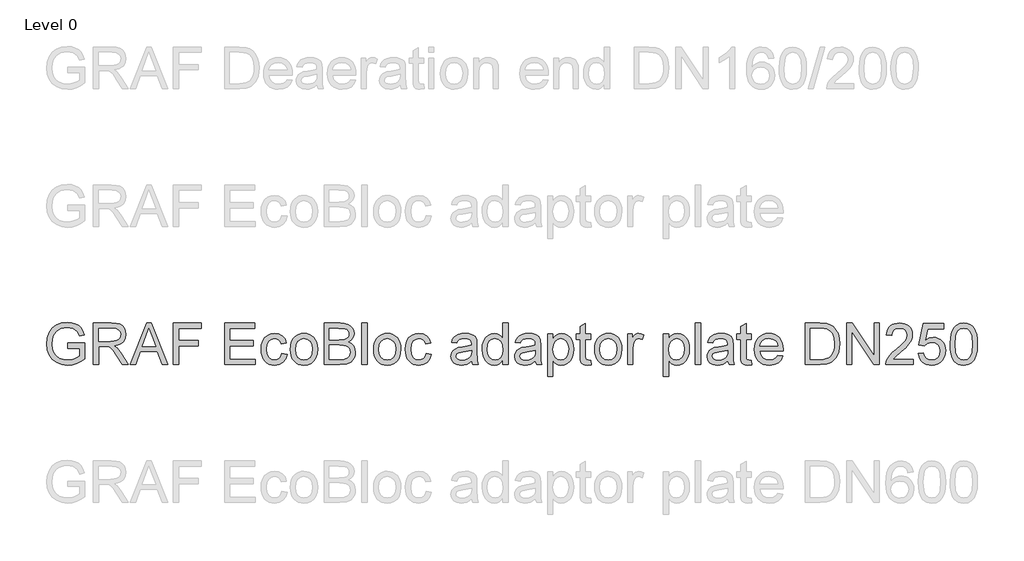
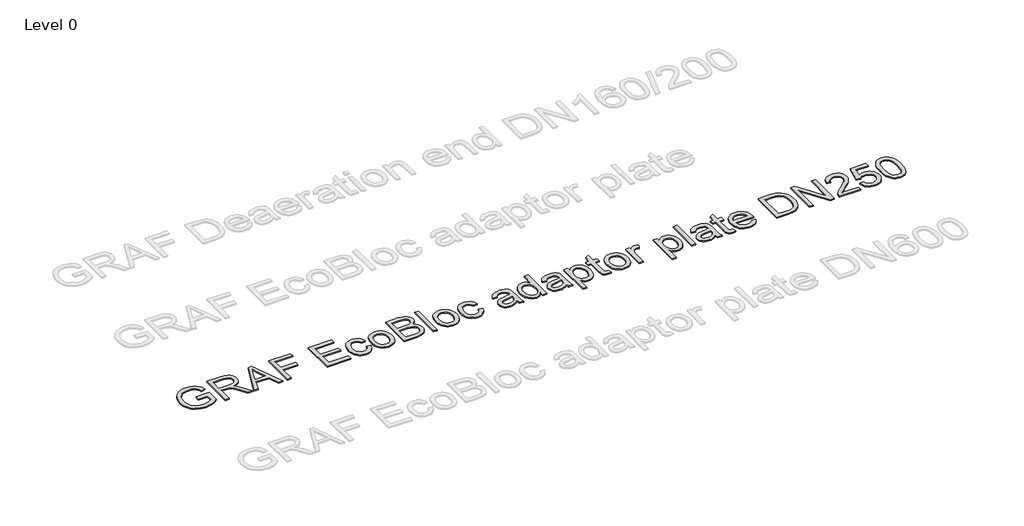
# One storey, part 2 of 25: 1 proxy.
"""IFC4 building model written with IfcOpenShell, lengths in millimetres."""

import ifcopenshell
import ifcopenshell.guid

model = None  # the IFC model being written
_history = None  # IfcOwnerHistory: only IFC2X3 demands one
_inside = {}  # id of a spatial element -> (the spatial element, [elements in it])
_under = {}  # id of a project, library or spatial element -> (it, [spatial elements below it])
_declared = {}  # id of a project -> (the project, [libraries it declares])
_typed = {}  # id of a type object -> (the type object, [elements of that type])
_made_of = {}  # id of a material, layer set ... -> (it, [elements and type objects made of it])


def new_model(schema):
    """Start an empty IFC model of exactly this schema.

    Asked for "IFC4X3", IfcOpenShell would pick the latest addendum, in which some entities
    have other attributes; the version numbers below select the first issue.
    IFC2X3 requires an IfcOwnerHistory on every rooted entity: one is made here for all.
    """
    global model, _history
    if schema == "IFC4X3":
        model = ifcopenshell.file(schema_version=(4, 3, 0, 0))
    else:
        model = ifcopenshell.file(schema=schema)
    _inside.clear()
    _under.clear()
    _declared.clear()
    _typed.clear()
    _made_of.clear()
    _history = None
    if model.schema == "IFC2X3":
        org = make("IfcOrganization", Name="unknown")
        user = make(
            "IfcPersonAndOrganization",
            ThePerson=make("IfcPerson", FamilyName="unknown"),
            TheOrganization=org,
        )
        app = make(
            "IfcApplication",
            ApplicationDeveloper=org,
            Version="unknown",
            ApplicationFullName="unknown",
            ApplicationIdentifier="unknown",
        )
        _history = make(
            "IfcOwnerHistory",
            OwningUser=user,
            OwningApplication=app,
            ChangeAction="ADDED",
            CreationDate=0,
        )
    return model


def make(cls, **values):
    """One entity of the class cls with the attributes given. An attribute that is None is left unset."""
    return model.create_entity(
        cls, **{name: value for name, value in values.items() if value is not None}
    )


def rooted(cls, **values):
    """An entity with a GlobalId (a new one), such as an element, a storey or a relation."""
    return make(cls, GlobalId=ifcopenshell.guid.new(), OwnerHistory=_history, **values)


def si_unit(unit_type, name, prefix=None):
    """IfcSIUnit, for example si_unit("LENGTHUNIT", "METRE", prefix="MILLI")."""
    return make("IfcSIUnit", UnitType=unit_type, Prefix=prefix, Name=name)


def assignment(units):
    """IfcUnitAssignment: the units of a project."""
    return None if units is None else make("IfcUnitAssignment", Units=units)


def point(xyz):
    """IfcCartesianPoint."""
    return None if xyz is None else make("IfcCartesianPoint", Coordinates=xyz)


def direction(xyz):
    """IfcDirection."""
    return None if xyz is None else make("IfcDirection", DirectionRatios=xyz)


def frame(location, z_axis=None, x_axis=None):
    """IfcAxis2Placement3D, a coordinate frame: its origin and axes. An axis left out is left unset."""
    return make(
        "IfcAxis2Placement3D",
        Location=point(location),
        Axis=direction(z_axis),
        RefDirection=direction(x_axis),
    )


def origin():
    """The frame at (0, 0, 0) with its axes left unset."""
    return frame((0.0, 0.0, 0.0))


def origin_with_axes():
    """The frame at (0, 0, 0) with the z axis (0, 0, 1) and the x axis (1, 0, 0) written out."""
    return frame((0.0, 0.0, 0.0), z_axis=(0.0, 0.0, 1.0), x_axis=(1.0, 0.0, 0.0))


def place(relative_to, where):
    """IfcLocalPlacement: puts the frame where relative to a parent placement (None: the world)."""
    return make(
        "IfcLocalPlacement", PlacementRelTo=relative_to, RelativePlacement=where
    )


def context(
    kind, dimensions, precision=None, world=None, true_north=None, identifier=None
):
    """IfcGeometricRepresentationContext, for example the 3D "Model" context."""
    return make(
        "IfcGeometricRepresentationContext",
        ContextIdentifier=identifier,
        ContextType=kind,
        CoordinateSpaceDimension=dimensions,
        Precision=precision,
        WorldCoordinateSystem=world,
        TrueNorth=true_north,
    )


def project(units=None, contexts=None):
    """IfcProject with its units and contexts."""
    return rooted(
        "IfcProject",
        Name="project",
        RepresentationContexts=contexts,
        UnitsInContext=assignment(units),
    )


def spatial(cls, under=None, at=None, **own):
    """A site, building, storey or space (cls), placed at a placement, below another one or the project."""
    s = rooted(cls, ObjectPlacement=at, **own)
    if under is not None:
        _under.setdefault(under.id(), (under, []))[1].append(s)
    return s


def polyline(points):
    """IfcPolyline through the points."""
    return make("IfcPolyline", Points=[point(p) for p in points])


def outline(outer, holes=None, kind="AREA"):
    """IfcArbitraryClosedProfileDef: a profile drawn as a closed curve; with holes, ...WithVoids."""
    if holes is None:
        return make("IfcArbitraryClosedProfileDef", ProfileType=kind, OuterCurve=outer)
    return make(
        "IfcArbitraryProfileDefWithVoids",
        ProfileType=kind,
        OuterCurve=outer,
        InnerCurves=holes,
    )


def extrude(swept, where, along, depth):
    """IfcExtrudedAreaSolid: the profile swept, set in the frame where, extruded along a direction by depth."""
    return make(
        "IfcExtrudedAreaSolid",
        SweptArea=swept,
        Position=where,
        ExtrudedDirection=direction(along),
        Depth=depth,
    )


def shape(context_of_items, identifier, shape_type, items):
    """IfcShapeRepresentation: the items that make up one representation, for example the "Body"."""
    return make(
        "IfcShapeRepresentation",
        ContextOfItems=context_of_items,
        RepresentationIdentifier=identifier,
        RepresentationType=shape_type,
        Items=items,
    )


def made_of(thing, what):
    """Note that an element or type object is made of a material, layer set ...; save() writes the relation."""
    if what is not None:
        _made_of.setdefault(what.id(), (what, []))[1].append(thing)
    return thing


def element(
    cls,
    number,
    at=None,
    inside=None,
    cuts=None,
    type_object=None,
    material=None,
    context=None,
    identifier="Body",
    shape_type=None,
    held_by="IfcProductDefinitionShape",
    body=None,
    shapes=None,
    **own,
):
    """One element of the class cls, such as IfcWall. Its Tag is "e" and its number.

    at: its placement. inside: the storey or other place that contains it. cuts: it is an
    opening in that element (IfcRelVoidsElement). A single representation is given by context,
    identifier, shape_type and body (its items); several are given by shapes. held_by: the class
    of the entity that holds the representations. save() writes the other relations.
    """
    e = rooted(cls, Tag="e%d" % number, ObjectPlacement=at, **own)
    if body is not None:
        shapes = [shape(context, identifier, shape_type, body)]
    if shapes is not None:
        e.Representation = make(held_by, Representations=shapes)
    if inside is not None:
        _inside.setdefault(inside.id(), (inside, []))[1].append(e)
    if cuts is not None:
        rooted(
            "IfcRelVoidsElement", RelatingBuildingElement=cuts, RelatedOpeningElement=e
        )
    if type_object is not None:
        _typed.setdefault(type_object.id(), (type_object, []))[1].append(e)
    return made_of(e, material)


def aggregate(whole, parts):
    """IfcRelAggregates: a whole, such as a stair, and the parts it consists of."""
    return rooted("IfcRelAggregates", RelatingObject=whole, RelatedObjects=parts)


def save(model, path):
    """Write the relations noted so far, then the file.

    IfcRelAggregates (storeys below a building ...), IfcRelContainedInSpatialStructure (elements
    in a storey), IfcRelDefinesByType, IfcRelAssociatesMaterial and IfcRelDeclares: one each for
    every whole, place, type object, material and project.
    """
    for whole, parts in _under.values():
        aggregate(whole, parts)
    for where, things in _inside.values():
        rooted(
            "IfcRelContainedInSpatialStructure",
            RelatedElements=things,
            RelatingStructure=where,
        )
    for kind, things in _typed.values():
        rooted("IfcRelDefinesByType", RelatedObjects=things, RelatingType=kind)
    for what, things in _made_of.values():
        rooted("IfcRelAssociatesMaterial", RelatedObjects=things, RelatingMaterial=what)
    for by, libraries in _declared.values():
        rooted("IfcRelDeclares", RelatingContext=by, RelatedDefinitions=libraries)
    model.write(path)


model = new_model("IFC4")

# Units and contexts
model_context = context("Model", 3, world=origin())
ifc_project = project(units=[si_unit("LENGTHUNIT", "METRE", prefix="MILLI")], contexts=[model_context])

# Site, building, storey
site = spatial("IfcSite", under=ifc_project)
building = spatial("IfcBuilding", under=site)
storey = spatial("IfcBuildingStorey", under=building, Name="Level 0", Elevation=0.0)

# Proxy
placement = place(None, origin())
element("IfcBuildingElementProxy", 1, Name="300mm Arial", ObjectType="300mm Arial", at=placement, inside=storey, context=model_context, shape_type="SweptSolid", body=[
    extrude(outline(polyline([(-15240.9940387, -9083.2545597), (-15240.9940387, -9045.5834434), (-15118.5629107, -9045.5834434), (-15118.5629107, -9158.2289103), (-15148.3153671, -9178.9222726), (-15179.0059225, -9193.7663111), (-15210.5610007, -9202.7058436), (-15242.9070251, -9205.6856877), (-15285.1674693, -9200.949207), (-15323.3628175, -9186.739765), (-15355.0926395, -9163.5540022), (-15377.9565055, -9131.8885595), (-15391.7796715, -9093.9047435), (-15396.3873935, -9051.7638609), (-15391.7980656, -9009.3194757), (-15378.0300819, -8969.8365406), (-15355.6536596, -8936.717964), (-15325.2390156, -8913.3666543), (-15288.1932987, -8899.5158972), (-15245.9236575, -8894.8989782), (-15214.8928112, -8897.5753197), (-15186.9889618, -8905.6043443), (-15163.4904994, -8918.4066377), (-15145.6758138, -8935.4027859), (-15132.4964413, -8957.4113262), (-15122.9039183, -8985.2507962), (-15157.6319786, -8995.0364573), (-15165.3850917, -8975.1800266), (-15174.8120678, -8960.1980323), (-15187.2832674, -8948.9040551), (-15204.169051, -8940.1116754), (-15224.3013932, -8934.4554897), (-15246.5122687, -8932.5700945), (-15272.5123287, -8934.6026425), (-15294.7415982, -8940.7002866), (-15313.1173039, -8950.0996716), (-15327.5566722, -8962.0374423), (-15346.9440533, -8991.0633317), (-15355.7732212, -9019.50061), (-15358.7162772, -9050.2187566), (-15355.175413, -9086.2436009), (-15344.5528204, -9115.8856927), (-15327.1703961, -9138.9334997), (-15303.3500369, -9155.1754898), (-15275.4737787, -9164.804801), (-15245.9236575, -9168.0145714), (-15219.831627, -9165.5957473), (-15194.3833899, -9158.3392749), (-15172.2828791, -9148.3420817), (-15156.234027, -9137.701095), (-15156.234027, -9083.2545597), (-15240.9940387, -9083.2545597)])), origin_with_axes(), (0.0, 0.0, 1.0), 10.0),
    extrude(outline(polyline([(-15057.3473467, -9200.9767982), (-15057.3473467, -8899.6078677), (-14927.4850024, -8899.6078677), (-14892.5821982, -8901.6404158), (-14867.1891434, -8907.7380598), (-14848.6294968, -8918.9952489), (-14834.2269167, -8936.5064318), (-14824.9838815, -8958.2206666), (-14821.9028698, -8982.087011), (-14827.0072325, -9011.7750881), (-14842.3203206, -9036.3863935), (-14853.9200997, -9046.4157764), (-14868.3019865, -9054.4310054), (-14905.4120827, -9064.4190016), (-14884.0013506, -9080.532233), (-14853.467145, -9119.3069952), (-14803.2144645, -9200.9767982), (-14846.9924219, -9200.9767982), (-14886.2086426, -9138.5104354), (-14914.5355562, -9097.1604991), (-14934.4379722, -9077.6259652), (-14952.3538253, -9070.4522663), (-14974.2060158, -9069.1278911), (-15019.6762304, -9069.1278911), (-15019.6762304, -9200.9767982), (-15057.3473467, -9200.9767982)]), holes=[polyline([(-15019.6762304, -9031.4567748), (-14935.3576771, -9031.4567748), (-14911.1418448, -9030.1232026), (-14892.3522719, -9026.1224859), (-14878.2072092, -9019.1879103), (-14867.9249074, -9009.0527613), (-14861.6617165, -8996.7930938), (-14859.5739861, -8983.4849626), (-14863.5563087, -8965.109257), (-14875.5032765, -8950.3020067), (-14896.058683, -8940.5347397), (-14925.8663217, -8937.278984), (-15019.6762304, -8937.278984), (-15019.6762304, -9031.4567748)])]), origin_with_axes(), (0.0, 0.0, 1.0), 10.0),
    extrude(outline(polyline([(-14791.0743586, -9200.9767982), (-14670.7769462, -8899.6078677), (-14638.6976362, -8899.6078677), (-14518.4002238, -9200.9767982), (-14558.2050557, -9200.9767982), (-14592.7123868, -9106.7990074), (-14716.835772, -9106.7990074), (-14751.2695268, -9200.9767982), (-14791.0743586, -9200.9767982)]), holes=[polyline([(-14703.003409, -9069.1278911), (-14606.4711735, -9069.1278911), (-14633.6208647, -8995.0364573), (-14654.7372912, -8937.278984), (-14673.499273, -8988.5617342), (-14703.003409, -9069.1278911)])]), origin_with_axes(), (0.0, 0.0, 1.0), 10.0),
    extrude(outline(polyline([(-14478.1539335, -9200.9767982), (-14478.1539335, -8899.6078677), (-14275.6716834, -8899.6078677), (-14275.6716834, -8937.278984), (-14440.4828172, -8937.278984), (-14440.4828172, -9026.7478853), (-14299.2161311, -9026.7478853), (-14299.2161311, -9064.4190016), (-14440.4828172, -9064.4190016), (-14440.4828172, -9200.9767982), (-14478.1539335, -9200.9767982)])), origin_with_axes(), (0.0, 0.0, 1.0), 10.0),
    extrude(outline(polyline([(-14106.15166, -9200.9767982), (-14106.15166, -8899.6078677), (-13889.5427413, -8899.6078677), (-13889.5427413, -8937.278984), (-14068.4805437, -8937.278984), (-14068.4805437, -9026.7478853), (-13898.9605203, -9026.7478853), (-13898.9605203, -9064.4190016), (-14068.4805437, -9064.4190016), (-14068.4805437, -9163.3056819), (-13884.8338517, -9163.3056819), (-13884.8338517, -9200.9767982), (-14106.15166, -9200.9767982)])), origin_with_axes(), (0.0, 0.0, 1.0), 10.0),
    extrude(outline(polyline([(-13691.7693806, -9120.925676), (-13654.0982643, -9125.6345656), (-13664.6012953, -9159.1394183), (-13684.3381643, -9184.4588966), (-13711.4510674, -9200.3789899), (-13744.0822004, -9205.6856877), (-13765.2101232, -9203.8347814), (-13784.1537467, -9198.2820626), (-13800.9130708, -9189.0275311), (-13815.4880956, -9176.0711871), (-13827.2856114, -9159.6567523), (-13835.7124083, -9140.0279486), (-13840.7684865, -9117.184776), (-13842.4538459, -9091.1272344), (-13839.5751693, -9057.6039876), (-13830.9391394, -9028.550507), (-13816.4078006, -9005.0888328), (-13795.8431971, -8988.341005), (-13771.2410887, -8978.2978265), (-13744.5972352, -8974.9501003), (-13712.7662455, -8979.5486253), (-13687.3180085, -8993.3442001), (-13669.0618645, -9015.6010608), (-13658.8071539, -9045.5834434), (-13696.4782702, -9050.292333), (-13703.3116782, -9033.8572048), (-13713.952665, -9022.0757839), (-13727.8126191, -9014.9848585), (-13744.3029296, -9012.6212166), (-13768.6475206, -9017.2749239), (-13787.9705224, -9031.2360456), (-13800.5796778, -9055.2587399), (-13804.7827296, -9090.0971648), (-13800.6716483, -9125.4046393), (-13788.3384044, -9149.5101071), (-13769.3648905, -9163.3884553), (-13745.3329991, -9168.0145714), (-13725.8260564, -9165.1266977), (-13709.8323866, -9156.4630768), (-13698.1981185, -9141.8029793), (-13691.7693806, -9120.925676)])), origin_with_axes(), (0.0, 0.0, 1.0), 10.0),
    extrude(outline(polyline([(-13630.5538167, -9090.317894), (-13628.5166701, -9061.6552881), (-13622.4052305, -9036.9566106), (-13612.2194977, -9016.2218617), (-13597.9594719, -8999.4510412), (-13583.602877, -8988.7318796), (-13567.7563601, -8981.0753356), (-13550.4199211, -8976.4814091), (-13531.5935599, -8974.9501003), (-13510.8105265, -8976.8148022), (-13492.0186543, -8982.4089078), (-13475.2179434, -8991.7324171), (-13460.4083939, -9004.7853302), (-13448.3211711, -9021.1261885), (-13439.6874405, -9040.3135338), (-13434.5072022, -9062.3473661), (-13432.780456, -9087.2276853), (-13435.8338766, -9125.2850777), (-13444.9941383, -9154.2557848), (-13459.9945266, -9175.9516255), (-13480.5683272, -9192.1844185), (-13505.0048887, -9202.3103704), (-13531.5935599, -9205.6856877), (-13552.6800961, -9203.8278836), (-13571.6467122, -9198.2544714), (-13588.4934083, -9188.965451), (-13603.2201844, -9175.9608225), (-13615.1786485, -9159.461315), (-13623.7204086, -9139.6876578), (-13628.8454646, -9116.6398508), (-13630.5538167, -9090.317894)]), holes=[polyline([(-13592.8827003, -9090.2443176), (-13588.5232987, -9124.3377815), (-13575.4450938, -9148.6271903), (-13555.763407, -9163.1677261), (-13531.5935599, -9168.0145714), (-13507.5340775, -9163.140135), (-13487.8891789, -9148.5168257), (-13474.810974, -9123.9055202), (-13470.4515723, -9089.0670952), (-13474.8385651, -9055.9669127), (-13487.9995435, -9032.0085978), (-13507.6720332, -9017.4680619), (-13531.5935599, -9012.6212166), (-13555.763407, -9017.4496678), (-13575.4450938, -9031.9350214), (-13588.5232987, -9056.1692478), (-13592.8827003, -9090.2443176)])]), origin_with_axes(), (0.0, 0.0, 1.0), 10.0),
    extrude(outline(polyline([(-13385.6915607, -9200.9767982), (-13385.6915607, -8899.6078677), (-13270.691649, -8899.6078677), (-13239.0629944, -8901.8243568), (-13214.3689155, -8908.4738238), (-13195.4413869, -8919.7218158), (-13181.1123831, -8935.7338797), (-13172.0900772, -8954.5694378), (-13169.0826419, -8974.2879128), (-13171.6118306, -8992.4336922), (-13179.1993968, -9009.4942197), (-13191.9005227, -9024.4210316), (-13209.7703906, -9036.1656643), (-13188.4240378, -9047.3124888), (-13172.6510973, -9064.2718488), (-13162.9114214, -9085.9217042), (-13159.6648628, -9111.140015), (-13161.8813518, -9132.1552739), (-13168.5308189, -9151.6438226), (-13178.4544357, -9168.2169065), (-13190.493374, -9180.485771), (-13205.236245, -9189.3701212), (-13223.2716598, -9195.789662), (-13271.5745658, -9200.9767982), (-13385.6915607, -9200.9767982)]), holes=[polyline([(-13348.0204444, -9163.3056819), (-13270.7652254, -9163.3056819), (-13242.8061937, -9161.8341539), (-13219.1513814, -9153.6303854), (-13203.4796084, -9136.8917546), (-13198.8718865, -9125.0643485), (-13197.3359791, -9111.507897), (-13199.1386009, -9095.7625476), (-13204.5464662, -9082.2244901), (-13213.9918365, -9071.6386857), (-13227.9069729, -9064.7500954), (-13247.6162508, -9060.9701079), (-13274.4440453, -9059.710112), (-13348.0204444, -9059.710112), (-13348.0204444, -9163.3056819)]), polyline([(-13348.0204444, -9022.0389957), (-13279.2265113, -9022.0389957), (-13239.0537974, -9018.8016342), (-13224.9915081, -9013.2190249), (-13214.8839503, -9004.8589065), (-13208.7863062, -8993.8500378), (-13206.7537582, -8980.3211775), (-13208.6483505, -8967.1877902), (-13214.3321273, -8955.7466602), (-13223.5475713, -8946.8163248), (-13236.037165, -8941.2153214), (-13284.4504356, -8937.278984), (-13348.0204444, -8937.278984), (-13348.0204444, -9022.0389957)])]), origin_with_axes(), (0.0, 0.0, 1.0), 10.0),
    extrude(outline(polyline([(-13112.5759674, -9200.9767982), (-13112.5759674, -8899.6078677), (-13074.9048511, -8899.6078677), (-13074.9048511, -9200.9767982), (-13112.5759674, -9200.9767982)])), origin_with_axes(), (0.0, 0.0, 1.0), 10.0),
    extrude(outline(polyline([(-13027.8159558, -9090.317894), (-13025.7788092, -9061.6552881), (-13019.6673696, -9036.9566106), (-13009.4816368, -9016.2218617), (-12995.221611, -8999.4510412), (-12980.8650161, -8988.7318796), (-12965.0184992, -8981.0753356), (-12947.6820602, -8976.4814091), (-12928.855699, -8974.9501003), (-12908.0726656, -8976.8148022), (-12889.2807934, -8982.4089078), (-12872.4800826, -8991.7324171), (-12857.670533, -9004.7853302), (-12845.5833102, -9021.1261885), (-12836.9495796, -9040.3135338), (-12831.7693413, -9062.3473661), (-12830.0425951, -9087.2276853), (-12833.0960157, -9125.2850777), (-12842.2562774, -9154.2557848), (-12857.2566657, -9175.9516255), (-12877.8304663, -9192.1844185), (-12902.2670278, -9202.3103704), (-12928.855699, -9205.6856877), (-12949.9422352, -9203.8278836), (-12968.9088513, -9198.2544714), (-12985.7555474, -9188.965451), (-13000.4823235, -9175.9608225), (-13012.4407876, -9159.461315), (-13020.9825477, -9139.6876578), (-13026.1076037, -9116.6398508), (-13027.8159558, -9090.317894)]), holes=[polyline([(-12990.1448394, -9090.2443176), (-12985.7854378, -9124.3377815), (-12972.7072329, -9148.6271903), (-12953.0255461, -9163.1677261), (-12928.855699, -9168.0145714), (-12904.7962166, -9163.140135), (-12885.151318, -9148.5168257), (-12872.0731131, -9123.9055202), (-12867.7137115, -9089.0670952), (-12872.1007042, -9055.9669127), (-12885.2616826, -9032.0085978), (-12904.9341723, -9017.4680619), (-12928.855699, -9012.6212166), (-12953.0255461, -9017.4496678), (-12972.7072329, -9031.9350214), (-12985.7854378, -9056.1692478), (-12990.1448394, -9090.2443176)])]), origin_with_axes(), (0.0, 0.0, 1.0), 10.0),
    extrude(outline(polyline([(-12646.3959032, -9120.925676), (-12608.7247868, -9125.6345656), (-12619.2278178, -9159.1394183), (-12638.9646869, -9184.4588966), (-12666.0775899, -9200.3789899), (-12698.7087229, -9205.6856877), (-12719.8366457, -9203.8347814), (-12738.7802692, -9198.2820626), (-12755.5395933, -9189.0275311), (-12770.1146181, -9176.0711871), (-12781.9121339, -9159.6567523), (-12790.3389308, -9140.0279486), (-12795.395009, -9117.184776), (-12797.0803684, -9091.1272344), (-12794.2016918, -9057.6039876), (-12785.5656619, -9028.550507), (-12771.0343231, -9005.0888328), (-12750.4697196, -8988.341005), (-12725.8676112, -8978.2978265), (-12699.2237577, -8974.9501003), (-12667.392768, -8979.5486253), (-12641.944531, -8993.3442001), (-12623.688387, -9015.6010608), (-12613.4336764, -9045.5834434), (-12651.1047927, -9050.292333), (-12657.9382008, -9033.8572048), (-12668.5791875, -9022.0757839), (-12682.4391416, -9014.9848585), (-12698.9294521, -9012.6212166), (-12723.2740431, -9017.2749239), (-12742.5970449, -9031.2360456), (-12755.2062003, -9055.2587399), (-12759.4092521, -9090.0971648), (-12755.2981708, -9125.4046393), (-12742.9649269, -9149.5101071), (-12723.991413, -9163.3884553), (-12699.9595217, -9168.0145714), (-12680.4525789, -9165.1266977), (-12664.4589091, -9156.4630768), (-12652.824641, -9141.8029793), (-12646.3959032, -9120.925676)])), origin_with_axes(), (0.0, 0.0, 1.0), 10.0),
    extrude(outline(polyline([(-12316.7736355, -9172.7234609), (-12334.7722621, -9188.1561106), (-12353.3043176, -9198.2544714), (-12372.7928663, -9203.8278836), (-12393.6609725, -9205.6856877), (-12425.1424742, -9201.2159215), (-12448.3650251, -9187.8066228), (-12462.6848318, -9167.4443543), (-12467.4581007, -9142.1156789), (-12465.6554789, -9126.4990883), (-12460.2476136, -9112.3172373), (-12451.9058894, -9100.1771315), (-12441.3016908, -9090.685776), (-12414.9245518, -9078.324941), (-12382.330207, -9072.6595583), (-12343.8129621, -9066.6998699), (-12316.9943647, -9059.710112), (-12316.7736355, -9051.3224025), (-12319.3672035, -9034.5101954), (-12327.1479077, -9023.5105237), (-12344.5487261, -9015.3435434), (-12368.7921496, -9012.6212166), (-12391.2329513, -9014.4330355), (-12406.9047243, -9019.868492), (-12417.5916963, -9029.9208675), (-12425.0780949, -9045.5834434), (-12462.7492112, -9040.8745539), (-12456.2101087, -9020.2731621), (-12446.4520388, -9004.0863544), (-12432.5644935, -8991.7071252), (-12413.6369648, -8982.5284694), (-12390.4879903, -8976.8446926), (-12363.9361073, -8974.9501003), (-12338.4694761, -8976.6239634), (-12318.2819517, -8981.6455527), (-12303.0608341, -8989.1963306), (-12292.4934238, -8998.4577598), (-12285.4852718, -9009.9080869), (-12280.9419291, -9024.0255585), (-12279.1025192, -9056.9877853), (-12279.1025192, -9103.8559515), (-12277.1895328, -9169.3021584), (-12269.6847401, -9200.9767982), (-12307.3558564, -9200.9767982), (-12316.7736355, -9172.7234609)]), holes=[polyline([(-12316.7736355, -9097.3812283), (-12377.5477411, -9108.932723), (-12409.9581449, -9115.0395641), (-12424.6366365, -9124.972378), (-12429.7869844, -9139.4669286), (-12426.9818842, -9150.6689353), (-12418.5665835, -9159.8475911), (-12404.7250235, -9165.9728263), (-12385.641145, -9168.0145714), (-12365.4076352, -9165.7612942), (-12347.5285703, -9159.0014625), (-12333.0340197, -9149.0410575), (-12322.954053, -9137.1860602), (-12318.4842868, -9124.972378), (-12316.9943647, -9108.0498062), (-12316.7736355, -9097.3812283)])]), origin_with_axes(), (0.0, 0.0, 1.0), 10.0),
    extrude(outline(polyline([(-12090.7469376, -9200.9767982), (-12090.7469376, -9165.4393974), (-12102.0179223, -9183.0471494), (-12115.6709428, -9195.6241151), (-12131.7059993, -9203.1702946), (-12150.1230917, -9205.6856877), (-12174.4768797, -9202.043656), (-12196.7705286, -9191.1175607), (-12215.642875, -9173.6707571), (-12229.7327554, -9150.4666002), (-12238.506741, -9122.4431893), (-12241.4314029, -9090.5386232), (-12238.7366672, -9059.0295303), (-12230.6524604, -9030.573858), (-12217.1879794, -9006.790287), (-12198.3524212, -8989.2974982), (-12175.5713287, -8978.5369498), (-12150.2702445, -8974.9501003), (-12131.8393565, -8977.5160773), (-12115.5421841, -8985.214008), (-12101.7282152, -8997.013823), (-12090.7469376, -9011.8854527), (-12090.7469376, -8899.6078677), (-12053.0758213, -8899.6078677), (-12053.0758213, -9200.9767982), (-12090.7469376, -9200.9767982)]), holes=[polyline([(-12203.7602866, -9090.3914704), (-12199.5112495, -9124.4665402), (-12186.7641384, -9148.7007667), (-12168.2412799, -9163.1861202), (-12146.6650009, -9168.0145714), (-12125.0979189, -9163.4068494), (-12107.04411, -9149.5836835), (-12094.8212307, -9126.2875561), (-12090.7469376, -9093.26095), (-12094.8948071, -9057.1533322), (-12107.3384156, -9032.1189624), (-12125.852077, -9017.4956531), (-12148.2101053, -9012.6212166), (-12170.0071135, -9017.302515), (-12187.8677844, -9031.3464102), (-12199.787161, -9055.470272), (-12203.7602866, -9090.3914704)])]), origin_with_axes(), (0.0, 0.0, 1.0), 10.0),
    extrude(outline(polyline([(-11855.3024607, -9172.7234609), (-11873.3010873, -9188.1561106), (-11891.8331428, -9198.2544714), (-11911.3216915, -9203.8278836), (-11932.1897977, -9205.6856877), (-11963.6712995, -9201.2159215), (-11986.8938504, -9187.8066228), (-12001.2136571, -9167.4443543), (-12005.9869259, -9142.1156789), (-12004.1843042, -9126.4990883), (-11998.7764388, -9112.3172373), (-11990.4347146, -9100.1771315), (-11979.8305161, -9090.685776), (-11953.453377, -9078.324941), (-11920.8590323, -9072.6595583), (-11882.3417874, -9066.6998699), (-11855.5231899, -9059.710112), (-11855.3024607, -9051.3224025), (-11857.8960288, -9034.5101954), (-11865.676733, -9023.5105237), (-11883.0775514, -9015.3435434), (-11907.3209748, -9012.6212166), (-11929.7617765, -9014.4330355), (-11945.4335495, -9019.868492), (-11956.1205215, -9029.9208675), (-11963.6069201, -9045.5834434), (-12001.2780364, -9040.8745539), (-11994.7389339, -9020.2731621), (-11984.980864, -9004.0863544), (-11971.0933187, -8991.7071252), (-11952.1657901, -8982.5284694), (-11929.0168155, -8976.8446926), (-11902.4649325, -8974.9501003), (-11876.9983014, -8976.6239634), (-11856.8107769, -8981.6455527), (-11841.5896594, -8989.1963306), (-11831.022249, -8998.4577598), (-11824.014097, -9009.9080869), (-11819.4707544, -9024.0255585), (-11817.6313444, -9056.9877853), (-11817.6313444, -9103.8559515), (-11815.718358, -9169.3021584), (-11808.2135653, -9200.9767982), (-11845.8846816, -9200.9767982), (-11855.3024607, -9172.7234609)]), holes=[polyline([(-11855.3024607, -9097.3812283), (-11916.0765663, -9108.932723), (-11948.4869701, -9115.0395641), (-11963.1654617, -9124.972378), (-11968.3158096, -9139.4669286), (-11965.5107094, -9150.6689353), (-11957.0954088, -9159.8475911), (-11943.2538487, -9165.9728263), (-11924.1699702, -9168.0145714), (-11903.9364605, -9165.7612942), (-11886.0573955, -9159.0014625), (-11871.5628449, -9149.0410575), (-11861.4828782, -9137.1860602), (-11857.013112, -9124.972378), (-11855.5231899, -9108.0498062), (-11855.3024607, -9097.3812283)])]), origin_with_axes(), (0.0, 0.0, 1.0), 10.0),
    extrude(outline(polyline([(-11765.8335595, -9285.7368099), (-11765.8335595, -8979.6589899), (-11728.1624432, -8979.6589899), (-11728.1624432, -9016.5943422), (-11715.8751846, -8998.3749864), (-11702.1163979, -8985.3611608), (-11686.0767429, -8977.5528655), (-11666.9468792, -8974.9501003), (-11641.471051, -8978.5921321), (-11619.1957962, -8989.5182274), (-11601.0592139, -9007.0661985), (-11587.999403, -9030.573858), (-11580.1083342, -9058.3305545), (-11577.477978, -9088.6256369), (-11580.4486251, -9120.8429026), (-11589.3605664, -9149.6572599), (-11603.9286934, -9173.6063777), (-11623.8678976, -9191.2279253), (-11647.0904485, -9202.0712471), (-11671.5086159, -9205.6856877), (-11688.8266609, -9203.2668636), (-11704.2869017, -9196.0103912), (-11717.5214565, -9185.0567048), (-11728.1624432, -9171.5462386), (-11728.1624432, -9285.7368099), (-11765.8335595, -9285.7368099)]), holes=[polyline([(-11728.1624432, -9092.0837276), (-11724.0881501, -9125.8552948), (-11711.8652708, -9149.4733189), (-11693.829856, -9163.3792583), (-11672.3179563, -9168.0145714), (-11650.4565688, -9163.2137114), (-11631.9613015, -9148.8111313), (-11619.3521461, -9124.3285845), (-11615.1490943, -9089.2878244), (-11619.2509785, -9055.7001983), (-11631.5566313, -9031.7510804), (-11649.5644549, -9017.4036826), (-11670.7728519, -9012.6212166), (-11692.0640224, -9017.7071852), (-11710.7616248, -9032.965091), (-11723.8122386, -9057.9166873), (-11728.1624432, -9092.0837276)])]), origin_with_axes(), (0.0, 0.0, 1.0), 10.0),
    extrude(outline(polyline([(-11455.04685, -9169.5596758), (-11450.3379604, -9202.0804442), (-11478.5177213, -9205.6856877), (-11496.5991213, -9204.1221892), (-11510.0819965, -9199.4316938), (-11519.6101401, -9192.2028126), (-11525.8273458, -9183.0241568), (-11529.2486484, -9167.2604133), (-11530.3890826, -9140.276269), (-11530.3890826, -9017.3301062), (-11558.6424198, -9017.3301062), (-11558.6424198, -8979.6589899), (-11530.3890826, -8979.6589899), (-11530.3890826, -8925.8746422), (-11492.7179663, -8903.7281461), (-11492.7179663, -8979.6589899), (-11455.04685, -8979.6589899), (-11455.04685, -9017.3301062), (-11492.7179663, -9017.3301062), (-11492.7179663, -9139.172623), (-11490.7314035, -9158.5967923), (-11484.2934686, -9165.4761856), (-11471.454387, -9168.0145714), (-11455.04685, -9169.5596758)])), origin_with_axes(), (0.0, 0.0, 1.0), 10.0),
    extrude(outline(polyline([(-11426.7935127, -9090.317894), (-11424.7563662, -9061.6552881), (-11418.6449265, -9036.9566106), (-11408.4591938, -9016.2218617), (-11394.199168, -8999.4510412), (-11379.8425731, -8988.7318796), (-11363.9960562, -8981.0753356), (-11346.6596171, -8976.4814091), (-11327.833256, -8974.9501003), (-11307.0502226, -8976.8148022), (-11288.2583504, -8982.4089078), (-11271.4576395, -8991.7324171), (-11256.64809, -9004.7853302), (-11244.5608672, -9021.1261885), (-11235.9271366, -9040.3135338), (-11230.7468983, -9062.3473661), (-11229.0201521, -9087.2276853), (-11232.0735727, -9125.2850777), (-11241.2338344, -9154.2557848), (-11256.2342227, -9175.9516255), (-11276.8080233, -9192.1844185), (-11301.2445848, -9202.3103704), (-11327.833256, -9205.6856877), (-11348.9197922, -9203.8278836), (-11367.8864083, -9198.2544714), (-11384.7331044, -9188.965451), (-11399.4598805, -9175.9608225), (-11411.4183446, -9159.461315), (-11419.9601047, -9139.6876578), (-11425.0851607, -9116.6398508), (-11426.7935127, -9090.317894)]), holes=[polyline([(-11389.1223964, -9090.2443176), (-11384.7629948, -9124.3377815), (-11371.6847899, -9148.6271903), (-11352.0031031, -9163.1677261), (-11327.833256, -9168.0145714), (-11303.7737736, -9163.140135), (-11284.128875, -9148.5168257), (-11271.0506701, -9123.9055202), (-11266.6912684, -9089.0670952), (-11271.0782612, -9055.9669127), (-11284.2392396, -9032.0085978), (-11303.9117293, -9017.4680619), (-11327.833256, -9012.6212166), (-11352.0031031, -9017.4496678), (-11371.6847899, -9031.9350214), (-11384.7629948, -9056.1692478), (-11389.1223964, -9090.2443176)])]), origin_with_axes(), (0.0, 0.0, 1.0), 10.0),
    extrude(outline(polyline([(-11186.6401463, -9200.9767982), (-11186.6401463, -8979.6589899), (-11153.6779195, -8979.6589899), (-11153.6779195, -9012.4004875), (-11141.5010255, -8993.4177765), (-11130.2806246, -8982.2341638), (-11119.0234356, -8976.7711162), (-11106.7361769, -8974.9501003), (-11087.9741952, -8977.8563681), (-11068.9179078, -8986.5751714), (-11081.4994721, -9020.3467385), (-11094.7432239, -9014.5525971), (-11107.9869757, -9012.6212166), (-11119.2349677, -9014.4790207), (-11129.2873432, -9020.052433), (-11137.4083383, -9028.918389), (-11142.8621889, -9040.6538247), (-11147.4423197, -9061.6966748), (-11148.96903, -9084.6525113), (-11148.96903, -9200.9767982), (-11186.6401463, -9200.9767982)])), origin_with_axes(), (0.0, 0.0, 1.0), 10.0),
    extrude(outline(polyline([(-10927.6512217, -9285.7368099), (-10927.6512217, -8979.6589899), (-10889.9801054, -8979.6589899), (-10889.9801054, -9016.5943422), (-10877.6928467, -8998.3749864), (-10863.9340601, -8985.3611608), (-10847.8944051, -8977.5528655), (-10828.7645414, -8974.9501003), (-10803.2887132, -8978.5921321), (-10781.0134584, -8989.5182274), (-10762.876876, -9007.0661985), (-10749.8170652, -9030.573858), (-10741.9259964, -9058.3305545), (-10739.2956402, -9088.6256369), (-10742.2662873, -9120.8429026), (-10751.1782286, -9149.6572599), (-10765.7463556, -9173.6063777), (-10785.6855597, -9191.2279253), (-10808.9081107, -9202.0712471), (-10833.3262781, -9205.6856877), (-10850.644323, -9203.2668636), (-10866.1045639, -9196.0103912), (-10879.3391187, -9185.0567048), (-10889.9801054, -9171.5462386), (-10889.9801054, -9285.7368099), (-10927.6512217, -9285.7368099)]), holes=[polyline([(-10889.9801054, -9092.0837276), (-10885.9058123, -9125.8552948), (-10873.682933, -9149.4733189), (-10855.6475182, -9163.3792583), (-10834.1356185, -9168.0145714), (-10812.2742309, -9163.2137114), (-10793.7789636, -9148.8111313), (-10781.1698083, -9124.3285845), (-10776.9667565, -9089.2878244), (-10781.0686407, -9055.7001983), (-10793.3742934, -9031.7510804), (-10811.3821171, -9017.4036826), (-10832.5905141, -9012.6212166), (-10853.8816846, -9017.7071852), (-10872.579287, -9032.965091), (-10885.6299008, -9057.9166873), (-10889.9801054, -9092.0837276)])]), origin_with_axes(), (0.0, 0.0, 1.0), 10.0),
    extrude(outline(polyline([(-10696.9156343, -9200.9767982), (-10696.9156343, -8899.6078677), (-10659.244518, -8899.6078677), (-10659.244518, -9200.9767982), (-10696.9156343, -9200.9767982)])), origin_with_axes(), (0.0, 0.0, 1.0), 10.0),
    extrude(outline(polyline([(-10461.4711574, -9172.7234609), (-10479.469784, -9188.1561106), (-10498.0018395, -9198.2544714), (-10517.4903882, -9203.8278836), (-10538.3584944, -9205.6856877), (-10569.8399961, -9201.2159215), (-10593.0625471, -9187.8066228), (-10607.3823537, -9167.4443543), (-10612.1556226, -9142.1156789), (-10610.3530008, -9126.4990883), (-10604.9451355, -9112.3172373), (-10596.6034113, -9100.1771315), (-10585.9992128, -9090.685776), (-10559.6220737, -9078.324941), (-10527.0277289, -9072.6595583), (-10488.510484, -9066.6998699), (-10461.6918866, -9059.710112), (-10461.4711574, -9051.3224025), (-10464.0647255, -9034.5101954), (-10471.8454297, -9023.5105237), (-10489.246248, -9015.3435434), (-10513.4896715, -9012.6212166), (-10535.9304732, -9014.4330355), (-10551.6022462, -9019.868492), (-10562.2892182, -9029.9208675), (-10569.7756168, -9045.5834434), (-10607.4467331, -9040.8745539), (-10600.9076306, -9020.2731621), (-10591.1495607, -9004.0863544), (-10577.2620154, -8991.7071252), (-10558.3344867, -8982.5284694), (-10535.1855122, -8976.8446926), (-10508.6336292, -8974.9501003), (-10483.1669981, -8976.6239634), (-10462.9794736, -8981.6455527), (-10447.758356, -8989.1963306), (-10437.1909457, -8998.4577598), (-10430.1827937, -9009.9080869), (-10425.6394511, -9024.0255585), (-10423.8000411, -9056.9877853), (-10423.8000411, -9103.8559515), (-10421.8870547, -9169.3021584), (-10414.382262, -9200.9767982), (-10452.0533783, -9200.9767982), (-10461.4711574, -9172.7234609)]), holes=[polyline([(-10461.4711574, -9097.3812283), (-10522.245263, -9108.932723), (-10554.6556668, -9115.0395641), (-10569.3341584, -9124.972378), (-10574.4845063, -9139.4669286), (-10571.6794061, -9150.6689353), (-10563.2641055, -9159.8475911), (-10549.4225454, -9165.9728263), (-10530.3386669, -9168.0145714), (-10510.1051572, -9165.7612942), (-10492.2260922, -9159.0014625), (-10477.7315416, -9149.0410575), (-10467.6515749, -9137.1860602), (-10463.1818087, -9124.972378), (-10461.6918866, -9108.0498062), (-10461.4711574, -9097.3812283)])]), origin_with_axes(), (0.0, 0.0, 1.0), 10.0),
    extrude(outline(polyline([(-10291.951134, -9169.5596758), (-10287.2422445, -9202.0804442), (-10315.4220053, -9205.6856877), (-10333.5034054, -9204.1221892), (-10346.9862805, -9199.4316938), (-10356.5144242, -9192.2028126), (-10362.7316299, -9183.0241568), (-10366.1529324, -9167.2604133), (-10367.2933666, -9140.276269), (-10367.2933666, -9017.3301062), (-10395.5467039, -9017.3301062), (-10395.5467039, -8979.6589899), (-10367.2933666, -8979.6589899), (-10367.2933666, -8925.8746422), (-10329.6222503, -8903.7281461), (-10329.6222503, -8979.6589899), (-10291.951134, -8979.6589899), (-10291.951134, -9017.3301062), (-10329.6222503, -9017.3301062), (-10329.6222503, -9139.172623), (-10327.6356876, -9158.5967923), (-10321.1977526, -9165.4761856), (-10308.358671, -9168.0145714), (-10291.951134, -9169.5596758)])), origin_with_axes(), (0.0, 0.0, 1.0), 10.0),
    extrude(outline(polyline([(-10099.3281213, -9135.0523446), (-10062.392769, -9139.7612342), (-10075.7009002, -9167.5915071), (-10096.9368884, -9188.3952339), (-10125.622487, -9201.3630743), (-10161.2794493, -9205.6856877), (-10184.6537516, -9203.8209859), (-10205.4804711, -9198.2268803), (-10223.7596077, -9188.9033709), (-10239.4911615, -9175.8504579), (-10252.1417036, -9159.4314246), (-10261.1778051, -9140.0095545), (-10266.599466, -9117.5848477), (-10268.4066863, -9092.157304), (-10266.5810719, -9065.8675369), (-10261.1042287, -9042.6955698), (-10251.9761567, -9022.6414025), (-10239.1968559, -9005.7050351), (-10223.5066888, -8992.2497512), (-10205.646018, -8982.638834), (-10185.6148433, -8976.8722838), (-10163.4131649, -8974.9501003), (-10141.9265571, -8976.8676852), (-10122.49549, -8982.6204399), (-10105.1199635, -8992.2083644), (-10089.7999777, -9005.6314587), (-10077.2942891, -9022.5310379), (-10068.3616544, -9042.548417), (-10063.0020736, -9065.6835959), (-10061.2155466, -9091.9365748), (-10061.4362758, -9102.0901179), (-10230.73557, -9102.0901179), (-10224.2148617, -9130.2882728), (-10209.0673205, -9151.0184232), (-10187.2059329, -9163.7655344), (-10160.5436853, -9168.0145714), (-10140.4941166, -9166.0464027), (-10123.608333, -9160.1418967), (-10109.8863346, -9149.9331713), (-10099.3281213, -9135.0523446)]), holes=[polyline([(-10230.73557, -9064.4190016), (-10098.886663, -9064.4190016), (-10103.9818286, -9044.5165856), (-10113.9698248, -9030.2795524), (-10135.9323799, -9017.0358006), (-10163.5603177, -9012.6212166), (-10188.9533724, -9016.1436868), (-10209.9502373, -9026.7110971), (-10224.5459555, -9043.1830134), (-10230.73557, -9064.4190016)])]), origin_with_axes(), (0.0, 0.0, 1.0), 10.0),
    extrude(outline(polyline([(-9901.1133023, -9200.9767982), (-9901.1133023, -8899.6078677), (-9797.1498505, -8899.6078677), (-9743.3655028, -8903.9488753), (-9719.3428085, -8912.3181907), (-9699.0725106, -8925.5067602), (-9678.2319956, -8948.4625967), (-9663.3879571, -8977.0102395), (-9654.5036069, -9010.5978657), (-9651.5421568, -9048.6736522), (-9653.5471137, -9081.0196766), (-9659.5619843, -9109.484546), (-9668.722246, -9133.7187724), (-9680.163376, -9153.372868), (-9693.3335515, -9168.8882911), (-9707.6809493, -9180.7065002), (-9724.1528656, -9189.4712888), (-9743.6965966, -9195.8264502), (-9792.1466554, -9200.9767982), (-9901.1133023, -9200.9767982)]), holes=[polyline([(-9863.442186, -9163.3056819), (-9796.7819685, -9163.3056819), (-9769.209213, -9161.9445185), (-9748.2951215, -9157.8610283), (-9732.512984, -9151.2943347), (-9720.3360899, -9142.4835609), (-9707.2486879, -9126.1771915), (-9697.4170416, -9105.069962), (-9691.2642152, -9079.069902), (-9689.2132731, -9048.085041), (-9693.2323839, -9007.0294103), (-9705.2897163, -8976.7159339), (-9723.1044019, -8955.893813), (-9744.3955724, -8943.3122488), (-9766.0638219, -8938.7873002), (-9797.8120381, -8937.278984), (-9863.442186, -8937.278984), (-9863.442186, -9163.3056819)])]), origin_with_axes(), (0.0, 0.0, 1.0), 10.0),
    extrude(outline(polyline([(-9599.7443719, -9200.9767982), (-9599.7443719, -8899.6078677), (-9559.4245052, -8899.6078677), (-9401.9710113, -9138.3632826), (-9401.9710113, -8899.6078677), (-9364.299895, -8899.6078677), (-9364.299895, -9200.9767982), (-9404.6197617, -9200.9767982), (-9562.0732556, -8962.1478069), (-9562.0732556, -9200.9767982), (-9599.7443719, -9200.9767982)])), origin_with_axes(), (0.0, 0.0, 1.0), 10.0),
    extrude(outline(polyline([(-9119.437639, -9163.3056819), (-9119.437639, -9200.9767982), (-9317.2109996, -9200.9767982), (-9313.1642977, -9175.0043293), (-9303.8752773, -9154.7064402), (-9290.2820376, -9135.0155564), (-9270.6187449, -9114.4049677), (-9243.1195658, -9091.3479636), (-9202.4686053, -9055.2403458), (-9178.078029, -9028.5872952), (-9165.8827409, -9006.9558339), (-9161.8176448, -8985.9129838), (-9165.6528146, -8967.0498345), (-9177.158324, -8951.3688645), (-9194.844251, -8940.8014541), (-9217.2206733, -8937.278984), (-9240.7191358, -8940.7186807), (-9258.9752798, -8951.0377707), (-9270.7567007, -8967.4269135), (-9274.8309938, -8989.076769), (-9312.5021101, -8984.3678794), (-9303.3694395, -8947.9291678), (-9294.8230809, -8933.3932305), (-9283.6233734, -8921.3129054), (-9270.0278345, -8911.8169514), (-9254.2939814, -8905.0341272), (-9216.4113329, -8899.6078677), (-9196.2215092, -8901.1161839), (-9178.252773, -8905.6411325), (-9162.5051243, -8913.1827134), (-9148.9785632, -8923.7409266), (-9138.114548, -8936.534023), (-9130.3545372, -8950.7802533), (-9125.6985307, -8966.4796174), (-9124.1465285, -8983.6321154), (-9125.8203916, -9001.6491361), (-9130.8419808, -9019.3534572), (-9139.7539222, -9037.3612808), (-9153.0988416, -9056.2888095), (-9174.3716179, -9078.885961), (-9207.0671302, -9107.9026534), (-9250.4036293, -9144.1390299), (-9267.3997775, -9163.3056819), (-9119.437639, -9163.3056819)])), origin_with_axes(), (0.0, 0.0, 1.0), 10.0),
    extrude(outline(polyline([(-9081.7665227, -9120.925676), (-9044.0954064, -9116.2167865), (-9037.1792249, -9138.8323321), (-9025.1126954, -9155.028337), (-9007.9510004, -9164.7680128), (-8985.7493219, -9168.0145714), (-8958.7467835, -9163.4988199), (-8938.5132738, -9149.9515654), (-8925.8765272, -9128.9363065), (-8921.6642784, -9102.0165415), (-8925.6098128, -9076.669472), (-8937.446416, -9057.2820909), (-8957.2660585, -9044.9764381), (-8985.1607108, -9040.8745539), (-9003.4352489, -9042.5116288), (-9018.2333021, -9047.4228534), (-9039.3865168, -9064.4190016), (-9077.0576331, -9059.710112), (-9044.0954064, -8904.3167573), (-8898.1198307, -8904.3167573), (-8898.1198307, -8941.9878736), (-9013.6347772, -8941.9878736), (-9029.7480086, -9024.9820517), (-9002.8374406, -9008.6480911), (-8974.6392857, -9003.2034376), (-8956.2934704, -9004.8910962), (-8939.4421758, -9009.9540722), (-8924.0854018, -9018.3923654), (-8910.2231483, -9030.205976), (-8898.7475294, -9044.6729355), (-8890.5506586, -9061.0712754), (-8885.6325362, -9079.4009958), (-8883.9931621, -9099.6620967), (-8889.8976681, -9137.333213), (-8897.2783006, -9154.1270261), (-8907.6111862, -9169.5596758), (-8923.2645651, -9185.364806), (-8941.5299061, -9196.6541847), (-8962.4072094, -9203.427812), (-8985.8964747, -9205.6856877), (-9022.8962064, -9199.8823492), (-9038.5748772, -9192.6281762), (-9052.3727513, -9182.4723338), (-9063.8529688, -9169.92066), (-9072.5786699, -9155.4789924), (-9081.7665227, -9120.925676)])), origin_with_axes(), (0.0, 0.0, 1.0), 10.0),
    extrude(outline(polyline([(-8851.0309353, -9052.7203541), (-8848.2626233, -9004.4818275), (-8839.9576873, -8966.0105679), (-8826.1989006, -8936.717964), (-8807.0690369, -8916.0154047), (-8782.4301403, -8903.709752), (-8752.144255, -8899.6078677), (-8728.9309011, -8902.0358889), (-8708.1455684, -8909.3199524), (-8690.7631441, -8921.1749497), (-8677.7585156, -8937.3157722), (-8667.9360663, -8957.6044643), (-8660.1001798, -8981.9030701), (-8654.968226, -9012.7591724), (-8653.2575747, -9052.7203541), (-8655.9982956, -9100.6829692), (-8664.2204582, -9139.0622584), (-8677.8964713, -9168.3824534), (-8696.9987439, -9189.1677861), (-8721.6928229, -9201.5562123), (-8752.144255, -9205.6856877), (-8772.8927995, -9203.892263), (-8791.2868993, -9198.5119888), (-8807.3265543, -9189.5448652), (-8821.0117645, -9176.9908921), (-8834.1451517, -9154.2971715), (-8843.5261426, -9126.0208417), (-8849.1547371, -9092.1619025), (-8851.0309353, -9052.7203541)]), holes=[polyline([(-8813.359819, -9052.6467777), (-8808.9452351, -9111.9033701), (-8803.4270051, -9132.1713688), (-8795.7014832, -9146.1991691), (-8775.9830083, -9162.5607208), (-8752.144255, -9168.0145714), (-8728.3055017, -9162.5423267), (-8708.5870268, -9146.1255927), (-8700.8615049, -9132.0747997), (-8695.343275, -9111.8113996), (-8690.928691, -9052.6467777), (-8695.1961222, -8994.7237576), (-8700.5304111, -8974.5224375), (-8707.9984156, -8960.1612441), (-8727.6801023, -8942.9995491), (-8752.5857134, -8937.278984), (-8776.1669493, -8942.3189674), (-8795.112872, -8957.4389174), (-8803.0959113, -8973.0739022), (-8808.7980823, -8994.1535405), (-8813.359819, -9052.6467777)])]), origin_with_axes(), (0.0, 0.0, 1.0), 10.0),
])

save(model, "model.ifc")
